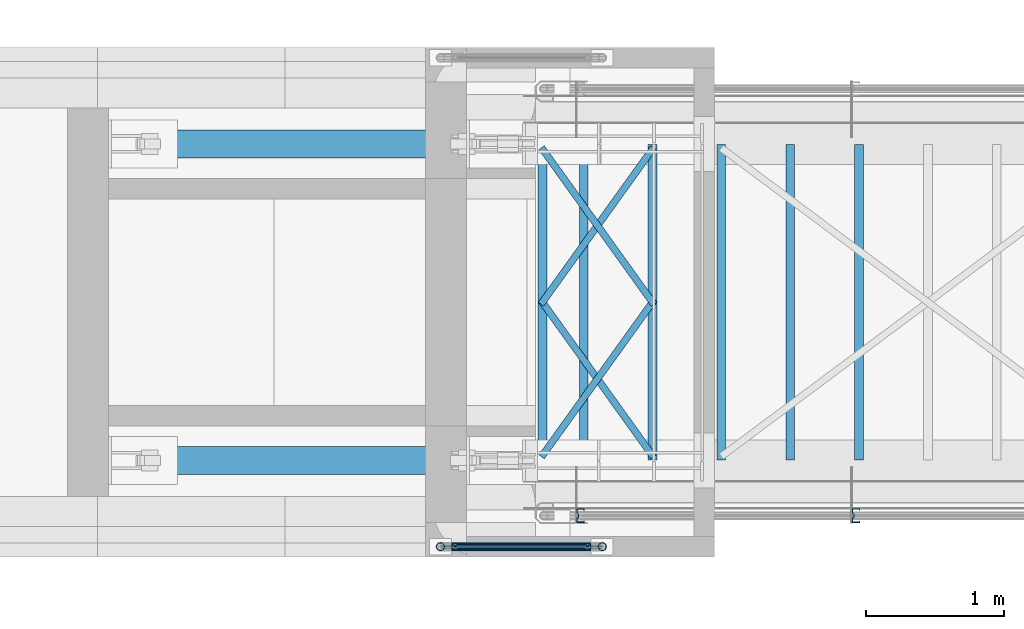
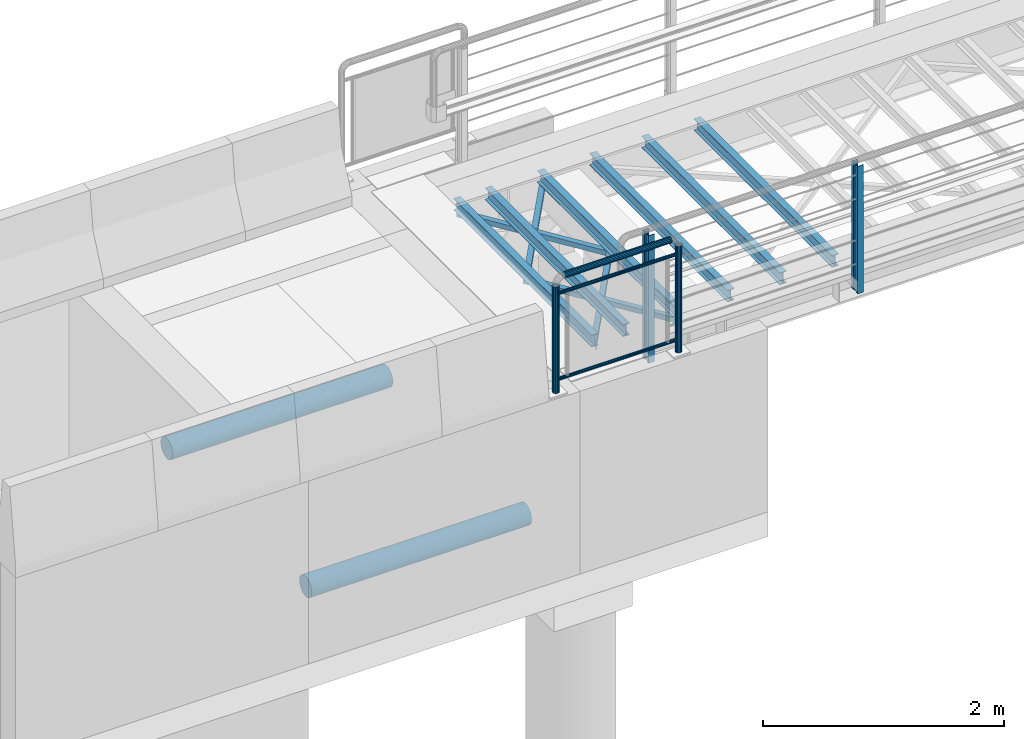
# One storey, part 5 of 31: 19 beams.
"""IFC2X3 building model written with IfcOpenShell, lengths in millimetres."""

from ifc_helpers import new_model, si_unit, frame, origin_with_axes, place, context, subcontext, project, spatial, faceted_brep, material, type_object, element, save


model = new_model("IFC2X3")

# Units and contexts
model_context = context("Model", 3, precision=1e-05, world=origin_with_axes())
body_context = subcontext(model_context, "Body", "Model", "MODEL_VIEW")
ifc_project = project(units=[si_unit("LENGTHUNIT", "METRE", prefix="MILLI"), si_unit("AREAUNIT", "SQUARE_METRE"), si_unit("VOLUMEUNIT", "CUBIC_METRE"), si_unit("MASSUNIT", "GRAM", prefix="KILO"), si_unit("TIMEUNIT", "SECOND"), si_unit("PLANEANGLEUNIT", "RADIAN"), si_unit("SOLIDANGLEUNIT", "STERADIAN"), si_unit("THERMODYNAMICTEMPERATUREUNIT", "DEGREE_CELSIUS"), si_unit("LUMINOUSINTENSITYUNIT", "LUMEN")], contexts=[model_context])

# Site, building, storey
site_placement = place(None, origin_with_axes())
site = spatial("IfcSite", under=ifc_project, at=site_placement, Name="Undefined", CompositionType="ELEMENT")
building_placement = place(site_placement, origin_with_axes())
building = spatial("IfcBuilding", under=site, at=building_placement, Name="Undefined", CompositionType="ELEMENT")
storey_placement = place(building_placement, origin_with_axes())
storey = spatial("IfcBuildingStorey", under=building, at=storey_placement, Name="Undefined", CompositionType="ELEMENT", Elevation=0.0)

# Beams
ifc_material = material(Name="STEEL/S355J2+N")
beam_type_1 = type_object("IfcBeamType", Name="D205", PredefinedType="NOTDEFINED")
beam_1_placement = place(storey_placement, frame((377.0, 2300.0, -1619.69), z_axis=(0.000351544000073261, 0.0, 0.999999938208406), x_axis=(0.999999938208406, 0.0, -0.000351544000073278)))
element("IfcBeam", 1, at=beam_1_placement, inside=storey, type_object=beam_type_1, material=ifc_material, Name="SYLINDER", context=body_context, shape_type="Brep", body=[
    faceted_brep([(5.6843418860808e-14, -102.5, -2.27373675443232e-13), (1.70530256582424e-13, -99.0073971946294, -26.5289521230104), (2105.00013007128, -99.0073971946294, -26.528952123), (2105.00013007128, -102.5, 1.04591890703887e-11), (2.27373675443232e-13, -88.7676038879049, -51.2500000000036), (2105.00013007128, -88.7676038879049, -51.2499999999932), (3.97903932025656e-13, -72.4784450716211, -72.4784450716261), (2105.00013007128, -72.4784450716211, -72.4784450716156), (4.54747350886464e-13, -51.25, -88.767603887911), (2105.00013007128, -51.25, -88.7676038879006), (5.11590769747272e-13, -26.5289521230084, -99.0073971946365), (2105.00013007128, -26.5289521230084, -99.007397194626), (5.11590769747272e-13, 0.0, -102.500000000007), (2105.00013007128, 0.0, -102.499999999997), (5.11590769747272e-13, 26.5289521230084, -99.0073971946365), (2105.00013007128, 26.5289521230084, -99.007397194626), (4.54747350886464e-13, 51.25, -88.767603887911), (2105.00013007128, 51.25, -88.7676038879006), (3.97903932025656e-13, 72.4784450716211, -72.4784450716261), (2105.00013007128, 72.4784450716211, -72.4784450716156), (2.27373675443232e-13, 88.7676038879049, -51.2500000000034), (2105.00013007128, 88.7676038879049, -51.249999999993), (1.70530256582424e-13, 99.0073971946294, -26.5289521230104), (2105.00013007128, 99.0073971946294, -26.528952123), (5.6843418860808e-14, 102.5, -2.27373675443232e-13), (2105.00013007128, 102.5, 1.04591890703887e-11), (-1.13686837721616e-13, 99.0073971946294, 26.5289521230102), (2105.00013007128, 99.0073971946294, 26.5289521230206), (-2.27373675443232e-13, 88.7676038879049, 51.2500000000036), (2105.00013007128, 88.7676038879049, 51.2500000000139), (-3.41060513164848e-13, 72.4784450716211, 72.4784450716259), (2105.00013007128, 72.4784450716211, 72.4784450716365), (-3.97903932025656e-13, 51.25, 88.767603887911), (2105.00013007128, 51.25, 88.7676038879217), (-4.54747350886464e-13, 26.5289521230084, 99.0073971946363), (2105.00013007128, 26.5289521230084, 99.0073971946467), (-4.54747350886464e-13, 0.0, 102.500000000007), (2105.00013007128, 0.0, 102.500000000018), (-4.54747350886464e-13, -26.5289521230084, 99.0073971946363), (2105.00013007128, -26.5289521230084, 99.0073971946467), (-3.97903932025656e-13, -51.25, 88.767603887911), (2105.00013007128, -51.25, 88.7676038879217), (-3.41060513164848e-13, -72.4784450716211, 72.4784450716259), (2105.00013007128, -72.4784450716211, 72.4784450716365), (-2.27373675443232e-13, -88.7676038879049, 51.2500000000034), (2105.00013007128, -88.7676038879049, 51.2500000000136), (-1.13686837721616e-13, -99.0073971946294, 26.5289521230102), (2105.00013007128, -99.0073971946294, 26.5289521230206)], [[[0, 1, 2, 3]], [[1, 4, 5, 2]], [[4, 6, 7, 5]], [[6, 8, 9, 7]], [[8, 10, 11, 9]], [[10, 12, 13, 11]], [[12, 14, 15, 13]], [[14, 16, 17, 15]], [[16, 18, 19, 17]], [[18, 20, 21, 19]], [[20, 22, 23, 21]], [[22, 24, 25, 23]], [[24, 26, 27, 25]], [[26, 28, 29, 27]], [[28, 30, 31, 29]], [[30, 32, 33, 31]], [[32, 34, 35, 33]], [[34, 36, 37, 35]], [[36, 38, 39, 37]], [[38, 40, 41, 39]], [[40, 42, 43, 41]], [[42, 44, 45, 43]], [[44, 46, 47, 45]], [[46, 0, 3, 47]], [[5, 7, 9, 11, 13, 15, 17, 19, 21, 23, 25, 27, 29, 31, 33, 35, 37, 39, 41, 43, 45, 47, 3, 2]], [[46, 44, 42, 40, 38, 36, 34, 32, 30, 28, 26, 24, 22, 20, 18, 16, 14, 12, 10, 8, 6, 4, 1, 0]]]),
])
beam_2_placement = place(storey_placement, frame((377.0, 0.0, -1619.69), z_axis=(0.000351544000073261, 0.0, 0.999999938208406), x_axis=(0.999999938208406, 0.0, -0.000351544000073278)))
element("IfcBeam", 2, at=beam_2_placement, inside=storey, type_object=beam_type_1, material=ifc_material, Name="SYLINDER", context=body_context, shape_type="Brep", body=[
    faceted_brep([(5.6843418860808e-14, -102.5, -2.27373675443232e-13), (1.70530256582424e-13, -99.0073971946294, -26.5289521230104), (2105.00013007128, -99.0073971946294, -26.528952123), (2105.00013007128, -102.5, 1.04591890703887e-11), (2.27373675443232e-13, -88.7676038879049, -51.2500000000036), (2105.00013007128, -88.7676038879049, -51.2499999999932), (3.97903932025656e-13, -72.4784450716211, -72.4784450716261), (2105.00013007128, -72.4784450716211, -72.4784450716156), (4.54747350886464e-13, -51.25, -88.767603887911), (2105.00013007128, -51.25, -88.7676038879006), (5.11590769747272e-13, -26.5289521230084, -99.0073971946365), (2105.00013007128, -26.5289521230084, -99.007397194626), (5.11590769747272e-13, 0.0, -102.500000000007), (2105.00013007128, 0.0, -102.499999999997), (5.11590769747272e-13, 26.5289521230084, -99.0073971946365), (2105.00013007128, 26.5289521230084, -99.007397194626), (4.54747350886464e-13, 51.25, -88.767603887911), (2105.00013007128, 51.25, -88.7676038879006), (3.97903932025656e-13, 72.4784450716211, -72.4784450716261), (2105.00013007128, 72.4784450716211, -72.4784450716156), (2.27373675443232e-13, 88.7676038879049, -51.2500000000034), (2105.00013007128, 88.7676038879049, -51.249999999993), (1.70530256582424e-13, 99.0073971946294, -26.5289521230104), (2105.00013007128, 99.0073971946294, -26.528952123), (5.6843418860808e-14, 102.5, -2.27373675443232e-13), (2105.00013007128, 102.5, 1.04591890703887e-11), (-1.13686837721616e-13, 99.0073971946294, 26.5289521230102), (2105.00013007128, 99.0073971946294, 26.5289521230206), (-2.27373675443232e-13, 88.7676038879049, 51.2500000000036), (2105.00013007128, 88.7676038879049, 51.2500000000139), (-3.41060513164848e-13, 72.4784450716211, 72.4784450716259), (2105.00013007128, 72.4784450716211, 72.4784450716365), (-3.97903932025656e-13, 51.25, 88.767603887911), (2105.00013007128, 51.25, 88.7676038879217), (-4.54747350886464e-13, 26.5289521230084, 99.0073971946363), (2105.00013007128, 26.5289521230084, 99.0073971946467), (-4.54747350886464e-13, 0.0, 102.500000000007), (2105.00013007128, 0.0, 102.500000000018), (-4.54747350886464e-13, -26.5289521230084, 99.0073971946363), (2105.00013007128, -26.5289521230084, 99.0073971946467), (-3.97903932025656e-13, -51.25, 88.767603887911), (2105.00013007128, -51.25, 88.7676038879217), (-3.41060513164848e-13, -72.4784450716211, 72.4784450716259), (2105.00013007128, -72.4784450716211, 72.4784450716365), (-2.27373675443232e-13, -88.7676038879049, 51.2500000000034), (2105.00013007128, -88.7676038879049, 51.2500000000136), (-1.13686837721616e-13, -99.0073971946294, 26.5289521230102), (2105.00013007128, -99.0073971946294, 26.5289521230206)], [[[0, 1, 2, 3]], [[1, 4, 5, 2]], [[4, 6, 7, 5]], [[6, 8, 9, 7]], [[8, 10, 11, 9]], [[10, 12, 13, 11]], [[12, 14, 15, 13]], [[14, 16, 17, 15]], [[16, 18, 19, 17]], [[18, 20, 21, 19]], [[20, 22, 23, 21]], [[22, 24, 25, 23]], [[24, 26, 27, 25]], [[26, 28, 29, 27]], [[28, 30, 31, 29]], [[30, 32, 33, 31]], [[32, 34, 35, 33]], [[34, 36, 37, 35]], [[36, 38, 39, 37]], [[38, 40, 41, 39]], [[40, 42, 43, 41]], [[42, 44, 45, 43]], [[44, 46, 47, 45]], [[46, 0, 3, 47]], [[5, 7, 9, 11, 13, 15, 17, 19, 21, 23, 25, 27, 29, 31, 33, 35, 37, 39, 41, 43, 45, 47, 3, 2]], [[46, 44, 42, 40, 38, 36, 34, 32, 30, 28, 26, 24, 22, 20, 18, 16, 14, 12, 10, 8, 6, 4, 1, 0]]]),
])
beam_type_2 = type_object("IfcBeamType", Name="IPE120", PredefinedType="NOTDEFINED")
for number, where, z_axis, x_axis in (
    (3, (5450.0, 5.75, -105.0), (0.0, 0.0, 1.0), (0.0, 1.0, 0.0)),
    (4, (4950.0, 5.75, -105.0), (0.0, 0.0, 1.0), (0.0, 1.0, 0.0)),
    (5, (4450.0, 5.75, -105.0), (0.0, 0.0, 1.0), (0.0, 1.0, 0.0)),
    (6, (3950.0, 5.75, -105.0), (0.0, 0.0, 1.0), (0.0, 1.0, 0.0)),
    (7, (3450.0, 5.75, -105.0), (0.0, 0.0, 1.0), (0.0, 1.0, 0.0)),
    (8, (3150.0, 5.75, -105.0), (0.0, 0.0, 1.0), (0.0, 1.0, 0.0)),
):
    element("IfcBeam", number, at=place(storey_placement, frame(where, z_axis=z_axis, x_axis=x_axis)), inside=storey, type_object=beam_type_2, material=ifc_material, Name="STÅLBJELKE", context=body_context, shape_type="Brep", body=[
        faceted_brep([(0.0, 32.0, -60.0), (0.0, 32.0, -53.699999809), (2288.5, 32.0, -53.699999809), (2288.5, 32.0, -60.0), (0.0, 2.2000000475, -53.699999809), (2288.5, 2.2000000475, -53.699999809), (0.0, 2.2000000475, 53.699999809), (2288.5, 2.2000000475, 53.699999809), (0.0, 32.0, 53.699999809), (2288.5, 32.0, 53.699999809), (0.0, 32.0, 60.0), (2288.5, 32.0, 60.0), (0.0, -32.0, 60.0), (2288.5, -32.0, 60.0), (0.0, -32.0, 53.699999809), (2288.5, -32.0, 53.699999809), (0.0, -2.2000000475, 53.699999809), (2288.5, -2.2000000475, 53.699999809), (0.0, -2.2000000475, -53.699999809), (2288.5, -2.2000000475, -53.699999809), (0.0, -32.0, -53.699999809), (2288.5, -32.0, -53.699999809), (0.0, -32.0, -60.0), (2288.5, -32.0, -60.0)], [[[0, 1, 2, 3]], [[1, 4, 5, 2]], [[4, 6, 7, 5]], [[6, 8, 9, 7]], [[8, 10, 11, 9]], [[10, 12, 13, 11]], [[12, 14, 15, 13]], [[14, 16, 17, 15]], [[16, 18, 19, 17]], [[18, 20, 21, 19]], [[20, 22, 23, 21]], [[22, 0, 3, 23]], [[5, 7, 9, 11, 13, 15, 17, 19, 21, 23, 3, 2]], [[22, 20, 18, 16, 14, 12, 10, 8, 6, 4, 1, 0]]]),
    ])
beam_type_3 = type_object("IfcBeamType", Name="CFCHS60.3*3.2", PredefinedType="NOTDEFINED")
beam_3_placement = place(storey_placement, frame((2410.0, -625.0, 1093.85), z_axis=(0.0, 1.0, 0.0), x_axis=(0.0, 0.0, -1.0)))
element("IfcBeam", 9, at=beam_3_placement, inside=storey, type_object=beam_type_3, material=ifc_material, Name="LKREKKVERK", context=body_context, shape_type="Brep", body=[
    faceted_brep([(0.0, -26.95, 0.0), (0.0, -24.898553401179, 10.3133185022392), (1078.85, -24.898553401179, 10.3133185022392), (1078.85, -26.9499999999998, 0.0), (0.0, -19.0565277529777, 19.0565277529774), (1078.85, -19.0565277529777, 19.0565277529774), (0.0, -10.3133185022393, 24.8985534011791), (1078.85, -10.3133185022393, 24.8985534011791), (0.0, 0.0, 26.95), (1078.85, 0.0, 26.95), (0.0, 10.3133185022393, 24.8985534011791), (1078.85, 10.3133185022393, 24.8985534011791), (0.0, 19.0565277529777, 19.0565277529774), (1078.85, 19.0565277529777, 19.0565277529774), (0.0, 24.898553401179, 10.3133185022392), (1078.85, 24.898553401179, 10.3133185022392), (0.0, 26.95, 0.0), (1078.85, 26.9499999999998, 0.0), (0.0, 24.898553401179, -10.3133185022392), (1078.85, 24.898553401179, -10.3133185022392), (0.0, 19.0565277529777, -19.0565277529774), (1078.85, 19.0565277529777, -19.0565277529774), (0.0, 10.3133185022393, -24.8985534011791), (1078.85, 10.3133185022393, -24.8985534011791), (0.0, 0.0, -26.95), (1078.85, 0.0, -26.95), (0.0, -10.3133185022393, -24.8985534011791), (1078.85, -10.3133185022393, -24.8985534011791), (0.0, -19.0565277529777, -19.0565277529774), (1078.85, -19.0565277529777, -19.0565277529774), (0.0, -24.898553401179, -10.3133185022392), (1078.85, -24.898553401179, -10.3133185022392), (0.0, -30.15, 0.0), (0.0, -27.8549679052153, -11.5379054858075), (1078.85, -27.8549679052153, -11.5379054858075), (1078.85, -30.1500000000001, 0.0), (0.0, -21.3192694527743, -21.3192694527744), (1078.85, -21.3192694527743, -21.3192694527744), (0.0, -11.5379054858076, -27.8549679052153), (1078.85, -11.5379054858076, -27.8549679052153), (0.0, 0.0, -30.15), (1078.85, 0.0, -30.15), (0.0, 11.5379054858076, -27.8549679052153), (1078.85, 11.5379054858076, -27.8549679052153), (0.0, 21.3192694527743, -21.3192694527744), (1078.85, 21.3192694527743, -21.3192694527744), (0.0, 27.8549679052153, -11.5379054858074), (1078.85, 27.8549679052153, -11.5379054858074), (0.0, 30.15, 0.0), (1078.85, 30.1500000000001, 0.0), (0.0, 27.8549679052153, 11.5379054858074), (1078.85, 27.8549679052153, 11.5379054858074), (0.0, 21.3192694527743, 21.3192694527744), (1078.85, 21.3192694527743, 21.3192694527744), (0.0, 11.5379054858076, 27.8549679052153), (1078.85, 11.5379054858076, 27.8549679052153), (0.0, 0.0, 30.15), (1078.85, 0.0, 30.15), (0.0, -11.5379054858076, 27.8549679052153), (1078.85, -11.5379054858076, 27.8549679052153), (0.0, -21.3192694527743, 21.3192694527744), (1078.85, -21.3192694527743, 21.3192694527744), (0.0, -27.8549679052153, 11.5379054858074), (1078.85, -27.8549679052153, 11.5379054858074)], [[[0, 1, 2, 3]], [[1, 4, 5, 2]], [[4, 6, 7, 5]], [[6, 8, 9, 7]], [[8, 10, 11, 9]], [[10, 12, 13, 11]], [[12, 14, 15, 13]], [[14, 16, 17, 15]], [[16, 18, 19, 17]], [[18, 20, 21, 19]], [[20, 22, 23, 21]], [[22, 24, 25, 23]], [[24, 26, 27, 25]], [[26, 28, 29, 27]], [[28, 30, 31, 29]], [[30, 0, 3, 31]], [[32, 33, 34, 35]], [[33, 36, 37, 34]], [[36, 38, 39, 37]], [[38, 40, 41, 39]], [[40, 42, 43, 41]], [[42, 44, 45, 43]], [[44, 46, 47, 45]], [[46, 48, 49, 47]], [[48, 50, 51, 49]], [[50, 52, 53, 51]], [[52, 54, 55, 53]], [[54, 56, 57, 55]], [[56, 58, 59, 57]], [[58, 60, 61, 59]], [[60, 62, 63, 61]], [[62, 32, 35, 63]], [[37, 39, 41, 43, 45, 47, 49, 51, 53, 55, 57, 59, 61, 63, 35, 34], [5, 7, 9, 11, 13, 15, 17, 19, 21, 23, 25, 27, 29, 31, 3, 2]], [[62, 60, 58, 56, 54, 52, 50, 48, 46, 44, 42, 40, 38, 36, 33, 32], [30, 28, 26, 24, 22, 20, 18, 16, 14, 12, 10, 8, 6, 4, 1, 0]]]),
])
beam_4_placement = place(storey_placement, frame((3585.15, -625.0, 1093.85), z_axis=(0.0, 1.0, 0.0), x_axis=(0.0, 0.0, -1.0)))
element("IfcBeam", 10, at=beam_4_placement, inside=storey, type_object=beam_type_3, material=ifc_material, Name="LKREKKVERK", context=body_context, shape_type="Brep", body=[
    faceted_brep([(0.0, -26.95, 0.0), (0.0, -24.898553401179, 10.3133185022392), (1078.85, -24.898553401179, 10.3133185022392), (1078.85, -26.9499999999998, 0.0), (0.0, -19.0565277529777, 19.0565277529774), (1078.85, -19.0565277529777, 19.0565277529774), (0.0, -10.3133185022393, 24.8985534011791), (1078.85, -10.3133185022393, 24.8985534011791), (0.0, 0.0, 26.95), (1078.85, 0.0, 26.95), (0.0, 10.3133185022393, 24.8985534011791), (1078.85, 10.3133185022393, 24.8985534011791), (0.0, 19.0565277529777, 19.0565277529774), (1078.85, 19.0565277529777, 19.0565277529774), (0.0, 24.898553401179, 10.3133185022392), (1078.85, 24.898553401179, 10.3133185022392), (0.0, 26.95, 0.0), (1078.85, 26.9499999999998, 0.0), (0.0, 24.898553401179, -10.3133185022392), (1078.85, 24.898553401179, -10.3133185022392), (0.0, 19.0565277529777, -19.0565277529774), (1078.85, 19.0565277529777, -19.0565277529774), (0.0, 10.3133185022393, -24.8985534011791), (1078.85, 10.3133185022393, -24.8985534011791), (0.0, 0.0, -26.95), (1078.85, 0.0, -26.95), (0.0, -10.3133185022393, -24.8985534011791), (1078.85, -10.3133185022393, -24.8985534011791), (0.0, -19.0565277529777, -19.0565277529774), (1078.85, -19.0565277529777, -19.0565277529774), (0.0, -24.898553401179, -10.3133185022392), (1078.85, -24.898553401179, -10.3133185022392), (0.0, -30.15, 0.0), (0.0, -27.8549679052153, -11.5379054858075), (1078.85, -27.8549679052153, -11.5379054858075), (1078.85, -30.1500000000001, 0.0), (0.0, -21.3192694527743, -21.3192694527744), (1078.85, -21.3192694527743, -21.3192694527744), (0.0, -11.5379054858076, -27.8549679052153), (1078.85, -11.5379054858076, -27.8549679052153), (0.0, 0.0, -30.15), (1078.85, 0.0, -30.15), (0.0, 11.5379054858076, -27.8549679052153), (1078.85, 11.5379054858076, -27.8549679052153), (0.0, 21.3192694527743, -21.3192694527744), (1078.85, 21.3192694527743, -21.3192694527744), (0.0, 27.8549679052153, -11.5379054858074), (1078.85, 27.8549679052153, -11.5379054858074), (0.0, 30.15, 0.0), (1078.85, 30.1500000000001, 0.0), (0.0, 27.8549679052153, 11.5379054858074), (1078.85, 27.8549679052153, 11.5379054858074), (0.0, 21.3192694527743, 21.3192694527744), (1078.85, 21.3192694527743, 21.3192694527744), (0.0, 11.5379054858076, 27.8549679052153), (1078.85, 11.5379054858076, 27.8549679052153), (0.0, 0.0, 30.15), (1078.85, 0.0, 30.15), (0.0, -11.5379054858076, 27.8549679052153), (1078.85, -11.5379054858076, 27.8549679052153), (0.0, -21.3192694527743, 21.3192694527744), (1078.85, -21.3192694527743, 21.3192694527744), (0.0, -27.8549679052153, 11.5379054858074), (1078.85, -27.8549679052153, 11.5379054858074)], [[[0, 1, 2, 3]], [[1, 4, 5, 2]], [[4, 6, 7, 5]], [[6, 8, 9, 7]], [[8, 10, 11, 9]], [[10, 12, 13, 11]], [[12, 14, 15, 13]], [[14, 16, 17, 15]], [[16, 18, 19, 17]], [[18, 20, 21, 19]], [[20, 22, 23, 21]], [[22, 24, 25, 23]], [[24, 26, 27, 25]], [[26, 28, 29, 27]], [[28, 30, 31, 29]], [[30, 0, 3, 31]], [[32, 33, 34, 35]], [[33, 36, 37, 34]], [[36, 38, 39, 37]], [[38, 40, 41, 39]], [[40, 42, 43, 41]], [[42, 44, 45, 43]], [[44, 46, 47, 45]], [[46, 48, 49, 47]], [[48, 50, 51, 49]], [[50, 52, 53, 51]], [[52, 54, 55, 53]], [[54, 56, 57, 55]], [[56, 58, 59, 57]], [[58, 60, 61, 59]], [[60, 62, 63, 61]], [[62, 32, 35, 63]], [[37, 39, 41, 43, 45, 47, 49, 51, 53, 55, 57, 59, 61, 63, 35, 34], [5, 7, 9, 11, 13, 15, 17, 19, 21, 23, 25, 27, 29, 31, 3, 2]], [[62, 60, 58, 56, 54, 52, 50, 48, 46, 44, 42, 40, 38, 36, 33, 32], [30, 28, 26, 24, 22, 20, 18, 16, 14, 12, 10, 8, 6, 4, 1, 0]]]),
])
beam_5_placement = place(storey_placement, frame((3508.81, -625.0, 1169.85), z_axis=(0.0, 1.0, 0.0), x_axis=(-1.0, 0.0, 0.0)))
element("IfcBeam", 11, at=beam_5_placement, inside=storey, type_object=beam_type_3, material=ifc_material, Name="LKREKKVERK", context=body_context, shape_type="Brep", body=[
    faceted_brep([(0.0, -26.95, 0.0), (0.0, -24.898553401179, 10.3133185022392), (1022.81, -24.8985534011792, 10.3133185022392), (1022.81, -26.95, 0.0), (0.0, -19.0565277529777, 19.0565277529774), (1022.81, -19.0565277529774, 19.0565277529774), (0.0, -10.3133185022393, 24.8985534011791), (1022.81, -10.3133185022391, 24.8985534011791), (0.0, 0.0, 26.95), (1022.81, 0.0, 26.95), (0.0, 10.3133185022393, 24.8985534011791), (1022.81, 10.3133185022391, 24.8985534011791), (0.0, 19.0565277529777, 19.0565277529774), (1022.81, 19.0565277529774, 19.0565277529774), (0.0, 24.898553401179, 10.3133185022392), (1022.81, 24.8985534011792, 10.3133185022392), (0.0, 26.95, 0.0), (1022.81, 26.95, 0.0), (0.0, 24.898553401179, -10.3133185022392), (1022.81, 24.8985534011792, -10.3133185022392), (0.0, 19.0565277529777, -19.0565277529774), (1022.81, 19.0565277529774, -19.0565277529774), (0.0, 10.3133185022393, -24.8985534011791), (1022.81, 10.3133185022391, -24.8985534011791), (0.0, 0.0, -26.95), (1022.81, 0.0, -26.95), (0.0, -10.3133185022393, -24.8985534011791), (1022.81, -10.3133185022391, -24.8985534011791), (0.0, -19.0565277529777, -19.0565277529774), (1022.81, -19.0565277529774, -19.0565277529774), (0.0, -24.898553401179, -10.3133185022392), (1022.81, -24.8985534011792, -10.3133185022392), (0.0, -30.15, 0.0), (0.0, -27.8549679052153, -11.5379054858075), (1022.81, -27.8549679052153, -11.5379054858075), (1022.81, -30.1500000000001, 0.0), (0.0, -21.3192694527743, -21.3192694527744), (1022.81, -21.3192694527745, -21.3192694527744), (0.0, -11.5379054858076, -27.8549679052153), (1022.81, -11.5379054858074, -27.8549679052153), (0.0, 0.0, -30.15), (1022.81, 0.0, -30.15), (0.0, 11.5379054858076, -27.8549679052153), (1022.81, 11.5379054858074, -27.8549679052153), (0.0, 21.3192694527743, -21.3192694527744), (1022.81, 21.3192694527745, -21.3192694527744), (0.0, 27.8549679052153, -11.5379054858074), (1022.81, 27.8549679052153, -11.5379054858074), (0.0, 30.15, 0.0), (1022.81, 30.1500000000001, 0.0), (0.0, 27.8549679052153, 11.5379054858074), (1022.81, 27.8549679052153, 11.5379054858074), (0.0, 21.3192694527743, 21.3192694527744), (1022.81, 21.3192694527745, 21.3192694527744), (0.0, 11.5379054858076, 27.8549679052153), (1022.81, 11.5379054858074, 27.8549679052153), (0.0, 0.0, 30.15), (1022.81, 0.0, 30.15), (0.0, -11.5379054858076, 27.8549679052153), (1022.81, -11.5379054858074, 27.8549679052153), (0.0, -21.3192694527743, 21.3192694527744), (1022.81, -21.3192694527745, 21.3192694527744), (0.0, -27.8549679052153, 11.5379054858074), (1022.81, -27.8549679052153, 11.5379054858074)], [[[0, 1, 2, 3]], [[1, 4, 5, 2]], [[4, 6, 7, 5]], [[6, 8, 9, 7]], [[8, 10, 11, 9]], [[10, 12, 13, 11]], [[12, 14, 15, 13]], [[14, 16, 17, 15]], [[16, 18, 19, 17]], [[18, 20, 21, 19]], [[20, 22, 23, 21]], [[22, 24, 25, 23]], [[24, 26, 27, 25]], [[26, 28, 29, 27]], [[28, 30, 31, 29]], [[30, 0, 3, 31]], [[32, 33, 34, 35]], [[33, 36, 37, 34]], [[36, 38, 39, 37]], [[38, 40, 41, 39]], [[40, 42, 43, 41]], [[42, 44, 45, 43]], [[44, 46, 47, 45]], [[46, 48, 49, 47]], [[48, 50, 51, 49]], [[50, 52, 53, 51]], [[52, 54, 55, 53]], [[54, 56, 57, 55]], [[56, 58, 59, 57]], [[58, 60, 61, 59]], [[60, 62, 63, 61]], [[62, 32, 35, 63]], [[37, 39, 41, 43, 45, 47, 49, 51, 53, 55, 57, 59, 61, 63, 35, 34], [5, 7, 9, 11, 13, 15, 17, 19, 21, 23, 25, 27, 29, 31, 3, 2]], [[62, 60, 58, 56, 54, 52, 50, 48, 46, 44, 42, 40, 38, 36, 33, 32], [30, 28, 26, 24, 22, 20, 18, 16, 14, 12, 10, 8, 6, 4, 1, 0]]]),
])
beam_type_4 = type_object("IfcBeamType", Name="CFCHS33.7*2.6", PredefinedType="NOTDEFINED")
beam_6_placement = place(storey_placement, frame((3585.15, -625.0, 136.85), z_axis=(0.0, 1.0, 0.0), x_axis=(-1.0, 0.0, 0.0)))
element("IfcBeam", 12, at=beam_6_placement, inside=storey, type_object=beam_type_4, material=ifc_material, Name="LKBRØYTETETTPANEL", context=body_context, shape_type="Brep", body=[
    faceted_brep([(0.0, -14.25, 0.0), (0.0, -12.3408620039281, 7.125), (1175.15, -12.3408620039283, 7.125), (1175.15, -14.25, 0.0), (0.0, -7.125, 12.3408620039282), (1175.15, -7.125, 12.3408620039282), (0.0, 0.0, 14.25), (1175.15, 0.0, 14.25), (0.0, 7.125, 12.3408620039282), (1175.15, 7.125, 12.3408620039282), (0.0, 12.3408620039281, 7.125), (1175.15, 12.3408620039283, 7.125), (0.0, 14.25, 0.0), (1175.15, 14.25, 0.0), (0.0, 12.3408620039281, -7.125), (1175.15, 12.3408620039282, -7.125), (0.0, 7.125, -12.3408620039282), (1175.15, 7.125, -12.3408620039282), (0.0, 0.0, -14.25), (1175.15, 0.0, -14.25), (0.0, -7.125, -12.3408620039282), (1175.15, -7.125, -12.3408620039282), (0.0, -12.3408620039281, -7.125), (1175.15, -12.3408620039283, -7.125), (0.0, -16.8499999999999, 0.0), (0.0, -14.5925280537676, -8.42499999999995), (1175.15, -14.5925280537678, -8.42499999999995), (1175.15, -16.85, 0.0), (0.0, -8.42500000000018, -14.5925280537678), (1175.15, -8.42499999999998, -14.5925280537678), (0.0, 0.0, -16.85), (1175.15, 0.0, -16.85), (0.0, 8.42500000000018, -14.5925280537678), (1175.15, 8.42500000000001, -14.5925280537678), (0.0, 14.5925280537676, -8.42499999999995), (1175.15, 14.5925280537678, -8.42499999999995), (0.0, 16.8499999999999, 0.0), (1175.15, 16.85, 0.0), (0.0, 14.5925280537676, 8.42499999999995), (1175.15, 14.5925280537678, 8.42499999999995), (0.0, 8.42500000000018, 14.5925280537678), (1175.15, 8.42499999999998, 14.5925280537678), (0.0, 0.0, 16.85), (1175.15, 0.0, 16.85), (0.0, -8.42500000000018, 14.5925280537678), (1175.15, -8.42500000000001, 14.5925280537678), (0.0, -14.5925280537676, 8.42499999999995), (1175.15, -14.5925280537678, 8.42499999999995)], [[[0, 1, 2, 3]], [[1, 4, 5, 2]], [[4, 6, 7, 5]], [[6, 8, 9, 7]], [[8, 10, 11, 9]], [[10, 12, 13, 11]], [[12, 14, 15, 13]], [[14, 16, 17, 15]], [[16, 18, 19, 17]], [[18, 20, 21, 19]], [[20, 22, 23, 21]], [[22, 0, 3, 23]], [[24, 25, 26, 27]], [[25, 28, 29, 26]], [[28, 30, 31, 29]], [[30, 32, 33, 31]], [[32, 34, 35, 33]], [[34, 36, 37, 35]], [[36, 38, 39, 37]], [[38, 40, 41, 39]], [[40, 42, 43, 41]], [[42, 44, 45, 43]], [[44, 46, 47, 45]], [[46, 24, 27, 47]], [[29, 31, 33, 35, 37, 39, 41, 43, 45, 47, 27, 26], [5, 7, 9, 11, 13, 15, 17, 19, 21, 23, 3, 2]], [[46, 44, 42, 40, 38, 36, 34, 32, 30, 28, 25, 24], [22, 20, 18, 16, 14, 12, 10, 8, 6, 4, 1, 0]]]),
])
beam_7_placement = place(storey_placement, frame((3585.15, -625.0, 1003.15), z_axis=(0.0, 1.0, 0.0), x_axis=(-1.0, 0.0, 0.0)))
element("IfcBeam", 13, at=beam_7_placement, inside=storey, type_object=beam_type_4, material=ifc_material, Name="LKBRØYTETETTPANEL", context=body_context, shape_type="Brep", body=[
    faceted_brep([(0.0, -14.25, 0.0), (0.0, -12.3408620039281, 7.125), (1175.15, -12.3408620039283, 7.125), (1175.15, -14.25, 0.0), (0.0, -7.125, 12.3408620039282), (1175.15, -7.125, 12.3408620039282), (0.0, 0.0, 14.25), (1175.15, 0.0, 14.25), (0.0, 7.125, 12.3408620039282), (1175.15, 7.125, 12.3408620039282), (0.0, 12.3408620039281, 7.125), (1175.15, 12.3408620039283, 7.125), (0.0, 14.25, 0.0), (1175.15, 14.25, 0.0), (0.0, 12.3408620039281, -7.125), (1175.15, 12.3408620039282, -7.125), (0.0, 7.125, -12.3408620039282), (1175.15, 7.125, -12.3408620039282), (0.0, 0.0, -14.25), (1175.15, 0.0, -14.25), (0.0, -7.125, -12.3408620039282), (1175.15, -7.125, -12.3408620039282), (0.0, -12.3408620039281, -7.125), (1175.15, -12.3408620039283, -7.125), (0.0, -16.8499999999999, 0.0), (0.0, -14.5925280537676, -8.42499999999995), (1175.15, -14.5925280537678, -8.42499999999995), (1175.15, -16.85, 0.0), (0.0, -8.42500000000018, -14.5925280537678), (1175.15, -8.42499999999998, -14.5925280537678), (0.0, 0.0, -16.85), (1175.15, 0.0, -16.85), (0.0, 8.42500000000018, -14.5925280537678), (1175.15, 8.42500000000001, -14.5925280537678), (0.0, 14.5925280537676, -8.42499999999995), (1175.15, 14.5925280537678, -8.42499999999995), (0.0, 16.8499999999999, 0.0), (1175.15, 16.85, 0.0), (0.0, 14.5925280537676, 8.42499999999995), (1175.15, 14.5925280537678, 8.42499999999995), (0.0, 8.42500000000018, 14.5925280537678), (1175.15, 8.42499999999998, 14.5925280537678), (0.0, 0.0, 16.85), (1175.15, 0.0, 16.85), (0.0, -8.42500000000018, 14.5925280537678), (1175.15, -8.42500000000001, 14.5925280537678), (0.0, -14.5925280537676, 8.42499999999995), (1175.15, -14.5925280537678, 8.42499999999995)], [[[0, 1, 2, 3]], [[1, 4, 5, 2]], [[4, 6, 7, 5]], [[6, 8, 9, 7]], [[8, 10, 11, 9]], [[10, 12, 13, 11]], [[12, 14, 15, 13]], [[14, 16, 17, 15]], [[16, 18, 19, 17]], [[18, 20, 21, 19]], [[20, 22, 23, 21]], [[22, 0, 3, 23]], [[24, 25, 26, 27]], [[25, 28, 29, 26]], [[28, 30, 31, 29]], [[30, 32, 33, 31]], [[32, 34, 35, 33]], [[34, 36, 37, 35]], [[36, 38, 39, 37]], [[38, 40, 41, 39]], [[40, 42, 43, 41]], [[42, 44, 45, 43]], [[44, 46, 47, 45]], [[46, 24, 27, 47]], [[29, 31, 33, 35, 37, 39, 41, 43, 45, 47, 27, 26], [5, 7, 9, 11, 13, 15, 17, 19, 21, 23, 3, 2]], [[46, 44, 42, 40, 38, 36, 34, 32, 30, 28, 25, 24], [22, 20, 18, 16, 14, 12, 10, 8, 6, 4, 1, 0]]]),
])
beam_type_5 = type_object("IfcBeamType", Name="CW100-5-10*55-10-30", PredefinedType="NOTDEFINED")
for number, where, z_axis, x_axis in (
    (14, (3427.5, -400.0, 1140.0), (0.0, 1.0, 0.0), (0.0, 0.0, -1.0)),
    (15, (5427.5, -400.0, 1140.0), (0.0, 1.0, 0.0), (0.0, 0.0, -1.0)),
):
    element("IfcBeam", number, at=place(storey_placement, frame(where, z_axis=z_axis, x_axis=x_axis)), inside=storey, type_object=beam_type_5, material=ifc_material, Name="STOLPE", context=body_context, shape_type="Brep", body=[
        faceted_brep([(0.0, -27.5, -50.0), (0.0, 27.5, -50.0), (1290.0, 27.5, -50.0), (1290.0, -27.5, -50.0), (0.0, 27.5, -20.0), (1290.0, 27.5, -20.0), (0.0, 17.5, -10.0), (1290.0, 17.5, -10.0), (0.0, 17.5, 10.0), (1290.0, 17.5, 10.0), (0.0, 27.5, 20.0), (1290.0, 27.5, 20.0), (0.0, 27.5, 50.0), (1290.0, 27.5, 50.0), (0.0, -27.5, 50.0), (1290.0, -27.5, 50.0), (0.0, -27.5, 40.0), (1290.0, -27.5, 40.0), (0.0, -22.5, 40.0), (1290.0, -22.5, 40.0), (0.0, -22.5, 45.0), (1290.0, -22.5, 45.0), (0.0, 22.5, 45.0), (1290.0, 22.5, 45.0), (0.0, 22.5, 21.9149999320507), (1290.0, 22.5, 21.9149999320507), (0.0, 12.5, 11.9149999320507), (1290.0, 12.5, 11.9149999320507), (0.0, 12.5, -11.9149999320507), (1290.0, 12.5, -11.9149999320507), (0.0, 22.5, -21.9149999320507), (1290.0, 22.5, -21.9149999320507), (0.0, 22.5, -45.0), (1290.0, 22.5, -45.0), (0.0, -22.5, -45.0), (1290.0, -22.5, -45.0), (0.0, -22.5, -40.0), (1290.0, -22.5, -40.0), (0.0, -27.5, -40.0), (1290.0, -27.5, -40.0)], [[[0, 1, 2, 3]], [[1, 4, 5, 2]], [[4, 6, 7, 5]], [[6, 8, 9, 7]], [[8, 10, 11, 9]], [[10, 12, 13, 11]], [[12, 14, 15, 13]], [[14, 16, 17, 15]], [[16, 18, 19, 17]], [[18, 20, 21, 19]], [[20, 22, 23, 21]], [[22, 24, 25, 23]], [[24, 26, 27, 25]], [[26, 28, 29, 27]], [[28, 30, 31, 29]], [[30, 32, 33, 31]], [[32, 34, 35, 33]], [[34, 36, 37, 35]], [[36, 38, 39, 37]], [[38, 0, 3, 39]], [[5, 7, 9, 11, 13, 15, 17, 19, 21, 23, 25, 27, 29, 31, 33, 35, 37, 39, 3, 2]], [[38, 36, 34, 32, 30, 28, 26, 24, 22, 20, 18, 16, 14, 12, 10, 8, 6, 4, 1, 0]]]),
    ])
beam_type_6 = type_object("IfcBeamType", Name="L50*5", PredefinedType="NOTDEFINED")
for number, where, z_axis, x_axis in (
    (16, (3139.72000103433, 1135.41999865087, -190.0), (0.0, 0.0, -1.0), (0.583652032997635, 0.81200388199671, 0.0)),
    (17, (3139.74, 1164.58, -190.0), (0.0, 0.0, -1.0), (0.583120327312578, -0.812385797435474, 0.0)),
    (18, (3143.96467992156, 2272.66186561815, -190.0), (0.0, 0.0, -1.0), (0.583218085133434, -0.81231561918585, 0.0)),
    (19, (3143.96195701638, 27.3400887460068, -190.0), (0.0, 0.0, -1.0), (0.583220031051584, 0.812314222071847, 0.0)),
):
    element("IfcBeam", number, at=place(storey_placement, frame(where, z_axis=z_axis, x_axis=x_axis)), inside=storey, type_object=beam_type_6, material=ifc_material, Name="STÅLBJELKE", context=body_context, shape_type="Brep", body=[
        faceted_brep([(-1.81898940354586e-12, 24.9999999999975, -25.0), (-1.81898940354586e-12, 24.9999999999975, 25.0), (1399.99999999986, 24.9999999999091, 25.0), (1399.99999999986, 24.9999999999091, -25.0), (-1.36424205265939e-12, 19.999999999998, 25.0), (1399.99999999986, 19.9999999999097, 25.0), (-1.36424205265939e-12, 19.999999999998, -20.0), (1399.99999999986, 19.9999999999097, -20.0), (1.81898940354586e-12, -24.9999999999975, -20.0), (1399.99999999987, -25.0000000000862, -20.0), (1.81898940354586e-12, -24.9999999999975, -25.0), (1399.99999999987, -25.0000000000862, -25.0)], [[[0, 1, 2, 3]], [[1, 4, 5, 2]], [[4, 6, 7, 5]], [[6, 8, 9, 7]], [[8, 10, 11, 9]], [[10, 0, 3, 11]], [[5, 7, 9, 11, 3, 2]], [[10, 8, 6, 4, 1, 0]]]),
    ])

save(model, "model.ifc")
